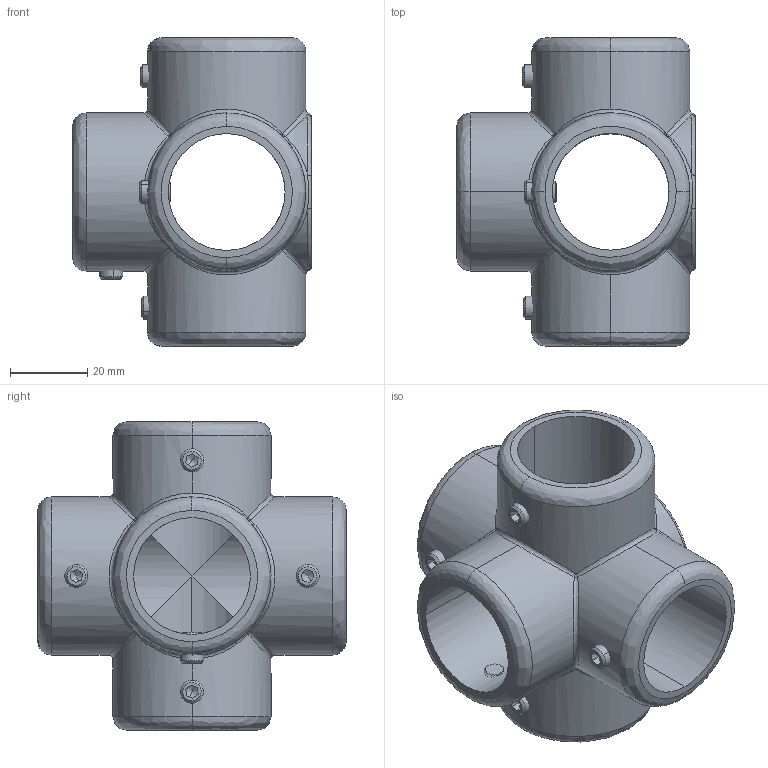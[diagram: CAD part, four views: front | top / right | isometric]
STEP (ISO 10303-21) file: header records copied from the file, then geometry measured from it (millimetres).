
FILE_DESCRIPTION (( 'STEP AP214' ), '1' );
FILE_NAME ('31000410022.STEP', '2024-09-02T09:41:26', ( '' ), ( '' ), 'SwSTEP 2.0', 'SolidWorks 2016', '' );
FILE_SCHEMA (( 'AUTOMOTIVE_DESIGN' ));
Length unit declared in the file: millimetre
Products named in the file (3): 1716a_1-Schalig; DIN 913  (Regelgewinde) M6 x 8_4; 31000410022
Assembly tree (6 placements, depth 2):
  31000410022
    1716a_1-Schalig
    DIN 913  (Regelgewinde) M6 x 8_4  x5
Bounding box: 62 x 80 x 80 mm (x, y, z)
Volume: 79193 mm3; surface area: 32169.7 mm2
Topology: 6 solids, 6 shells, 158 faces, 404 edges, 246 vertices
Faces by surface type: plane 46, cylinder 44, bspline 38, cone 30
Entity records: 9143 total; most frequent: CARTESIAN_POINT 6091, ORIENTED_EDGE 484, DIRECTION 272, EDGE_CURVE 242, VERTEX_POINT 146, B_SPLINE_CURVE_WITH_KNOTS 117, AXIS2_PLACEMENT_3D 109, EDGE_LOOP 106
